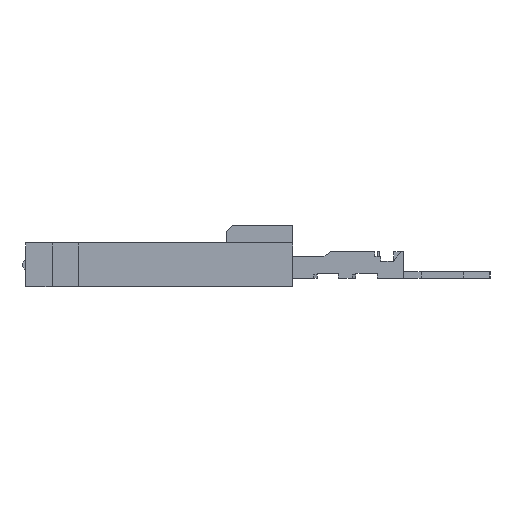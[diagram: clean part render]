
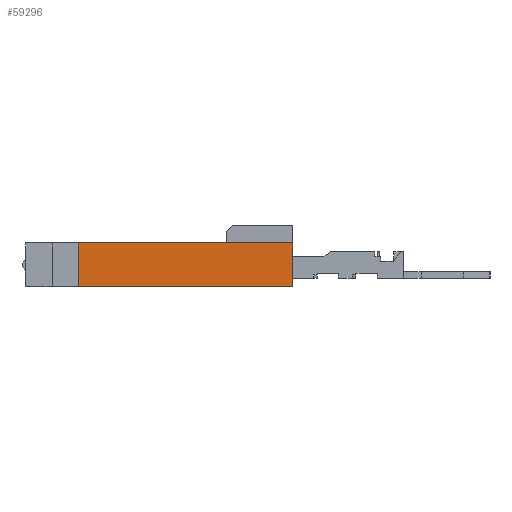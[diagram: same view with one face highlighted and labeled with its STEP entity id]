
A CAD part, left-side view. The second image highlights one B-rep face of the part: STEP entity #59296.
In plain terms, the highlighted planar face has unit normal (-1, 0, 0).
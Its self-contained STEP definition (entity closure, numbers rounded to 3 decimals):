
#217=DIRECTION('',(0.,0.,1.));
#218=VECTOR('',#217,2.51);
#219=CARTESIAN_POINT('',(-19.035,-7.62,-1.255));
#220=LINE('',#219,#218);
#19005=DIRECTION('',(0.,1.,0.));
#19006=VECTOR('',#19005,12.24);
#19007=CARTESIAN_POINT('',(-19.035,-7.62,1.255));
#19008=LINE('',#19007,#19006);
#19949=DIRECTION('',(0.,0.,1.));
#19950=VECTOR('',#19949,2.51);
#19951=CARTESIAN_POINT('',(-19.035,4.62,-1.255));
#19952=LINE('',#19951,#19950);
#19953=DIRECTION('',(0.,1.,0.));
#19954=VECTOR('',#19953,12.24);
#19955=CARTESIAN_POINT('',(-19.035,-7.62,-1.255));
#19956=LINE('',#19955,#19954);
#23289=CARTESIAN_POINT('',(-19.035,-7.62,-1.255));
#23290=CARTESIAN_POINT('',(-19.035,-7.62,1.255));
#23291=VERTEX_POINT('',#23289);
#23292=VERTEX_POINT('',#23290);
#24243=CARTESIAN_POINT('',(-19.035,4.62,-1.255));
#24244=CARTESIAN_POINT('',(-19.035,4.62,1.255));
#24245=VERTEX_POINT('',#24243);
#24246=VERTEX_POINT('',#24244);
#59285=CARTESIAN_POINT('',(-19.035,-7.62,-1.255));
#59286=DIRECTION('',(-1.,0.,0.));
#59287=DIRECTION('',(0.,0.,1.));
#59288=AXIS2_PLACEMENT_3D('',#59285,#59286,#59287);
#59289=PLANE('',#59288);
#59290=ORIENTED_EDGE('',*,*,#59277,.T.);
#59291=ORIENTED_EDGE('',*,*,#57447,.F.);
#59292=ORIENTED_EDGE('',*,*,#31080,.F.);
#59293=ORIENTED_EDGE('',*,*,#31287,.T.);
#59294=EDGE_LOOP('',(#59290,#59291,#59292,#59293));
#59295=FACE_OUTER_BOUND('',#59294,.F.);
#59296=ADVANCED_FACE('',(#59295),#59289,.T.);
#31080=EDGE_CURVE('',#23291,#23292,#220,.T.);
#31287=EDGE_CURVE('',#23291,#24245,#19956,.T.);
#57447=EDGE_CURVE('',#23292,#24246,#19008,.T.);
#59277=EDGE_CURVE('',#24245,#24246,#19952,.T.);
